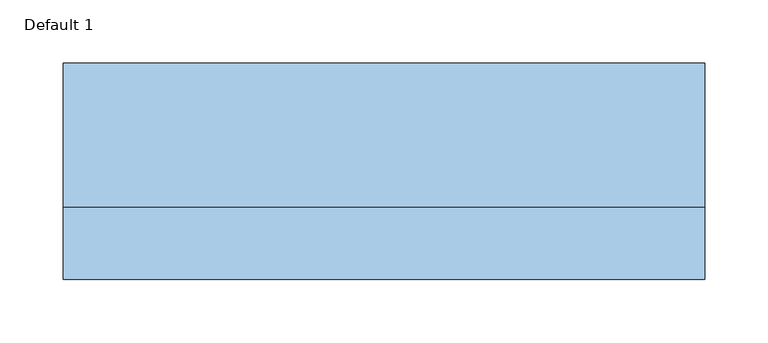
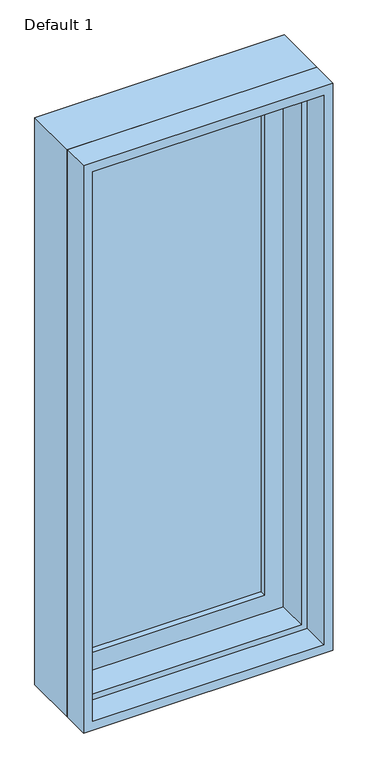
"""IFC4 building model written with IfcOpenShell, lengths in millimetres: window geometry, Planitar-Casement-Single_Left : Default 1."""

from ifc_helpers import new_model, si_unit, frame, origin, place, context, project, spatial, polyline, outline, extrude, faceted_brep, source, transform, mapped, element, save


def default_1_6015c5f7(model_context):
    return source(origin(), model_context, "Body", "SolidModel", [
        extrude(outline(polyline([(184.15, 76.2), (184.15, 69.85), (-184.15, 69.85), (-184.15, 76.2), (184.15, 76.2)])), frame((0.0, 0.0, 984.25), z_axis=(0.0, 0.0, 1.0), x_axis=(1.0, 0.0, 0.0)), (0.0, 0.0, 1.0), 1079.5),
        extrude(outline(polyline([(-184.15, 57.15), (-184.15, 63.5), (184.15, 63.5), (184.15, 57.15), (-184.15, 57.15)])), frame((0.0, 0.0, 984.25), z_axis=(0.0, 0.0, 1.0), x_axis=(1.0, 0.0, 0.0)), (0.0, 0.0, 1.0), 1079.5),
        extrude(outline(polyline([(2120.9, -241.3), (927.1, -241.3), (927.1, 241.3), (2120.9, 241.3), (2120.9, -241.3)]), holes=[polyline([(2063.75, 184.15), (984.25, 184.15), (984.25, -184.15), (2063.75, -184.15), (2063.75, 184.15)])]), frame((0.0, 44.45, 0.0), z_axis=(0.0, 1.0, 0.0), x_axis=(0.0, 0.0, 1.0)), (0.0, 0.0, 1.0), 44.45),
        extrude(outline(polyline([(2133.6, -254.0), (914.4, -254.0), (914.4, 254.0), (2133.6, 254.0), (2133.6, -254.0)]), holes=[polyline([(2114.55, 234.95), (933.45, 234.95), (933.45, -234.95), (2114.55, -234.95), (2114.55, 234.95)])]), frame((0.0, -76.2, 0.0), z_axis=(0.0, 1.0, 0.0), x_axis=(0.0, 0.0, 1.0)), (0.0, 0.0, 1.0), 57.15),
        faceted_brep([(222.25, 44.45, 2101.85), (222.25, -19.05, 2101.85), (-222.25, -19.05, 2101.85), (-222.25, 44.45, 2101.85), (241.3, 95.25, 2120.9), (241.3, 44.45, 2120.9), (-241.3, 44.45, 2120.9), (-241.3, 95.25, 2120.9), (254.0, -19.05, 2133.6), (254.0, 95.25, 2133.6), (-254.0, 95.25, 2133.6), (-254.0, -19.05, 2133.6), (-222.25, -19.05, 946.15), (-222.25, 44.45, 946.15), (-241.3, 44.45, 927.1), (-241.3, 95.25, 927.1), (-254.0, 95.25, 914.4), (-254.0, -19.05, 914.4), (222.25, -19.05, 946.15), (222.25, 44.45, 946.15), (241.3, 44.45, 927.1), (241.3, 95.25, 927.1), (254.0, 95.25, 914.4), (254.0, -19.05, 914.4)], [[[0, 1, 2, 3]], [[4, 5, 6, 7]], [[8, 9, 10, 11]], [[3, 2, 12, 13]], [[7, 6, 14, 15]], [[11, 10, 16, 17]], [[13, 12, 18, 19]], [[15, 14, 20, 21]], [[17, 16, 22, 23]], [[11, 17, 23, 8], [1, 18, 12, 2]], [[19, 18, 1, 0]], [[5, 20, 14, 6], [3, 13, 19, 0]], [[21, 20, 5, 4]], [[23, 22, 9, 8]], [[9, 22, 16, 10], [7, 15, 21, 4]]]),
    ])


if __name__ == "__main__":
    model = new_model("IFC4")
    model_context = context("Model", 3, world=origin())
    ifc_project = project(units=[si_unit("LENGTHUNIT", "METRE", prefix="MILLI")], contexts=[model_context])
    site = spatial("IfcSite", under=ifc_project)
    building = spatial("IfcBuilding", under=site)
    placement = place(None, origin())
    default_1_shape = default_1_6015c5f7(model_context)
    element("IfcWindow", 1, ObjectType="Planitar-Casement-Single_Left : Default 1", at=placement, inside=building, context=model_context, shape_type="MappedRepresentation", body=[
        mapped(default_1_shape, transform((0.0, 0.0, 0.0), x_axis=(1.0, 0.0, 0.0), y_axis=(0.0, 1.0, 0.0), z_axis=(0.0, 0.0, 1.0))),
    ])
    save(model, "model.ifc")
